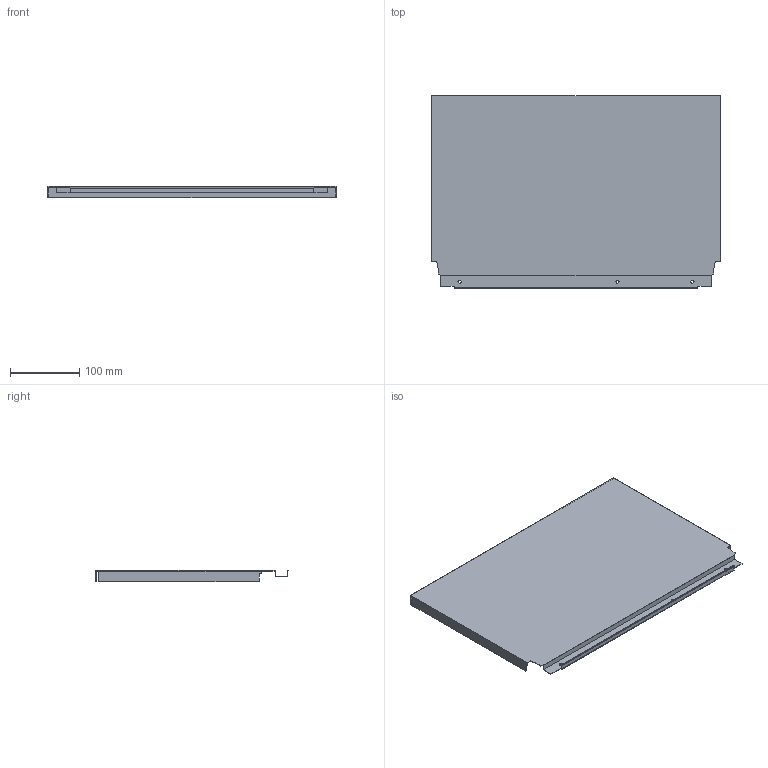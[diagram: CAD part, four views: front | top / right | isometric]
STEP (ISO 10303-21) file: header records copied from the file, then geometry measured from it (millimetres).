
FILE_DESCRIPTION (( 'STEP AP214' ), '1' );
FILE_NAME ('_DWD_XP Stahlrückwand_H278_KAB500_S16.step', '2010-07-08T13:03:45', ( 'grass' ), ( '' ), 'SwSTEP 2.0', 'SolidWorks 2010', '' );
FILE_SCHEMA (( 'AUTOMOTIVE_DESIGN' ));
Length unit declared in the file: millimetre
Products named in the file (1): _DWD_XP Stahlrückwand_H278_KAB500_S16
Bounding box: 417 x 278.57 x 16 mm (x, y, z)
Volume: 118073.5 mm3; surface area: 269676 mm2
Topology: 1 solids, 1 shells, 46 faces, 132 edges, 88 vertices
Faces by surface type: plane 40, cylinder 6
Entity records: 1534 total; most frequent: CARTESIAN_POINT 267, ORIENTED_EDGE 264, DIRECTION 238, EDGE_CURVE 132, VECTOR 120, LINE 120, VERTEX_POINT 88, AXIS2_PLACEMENT_3D 59
